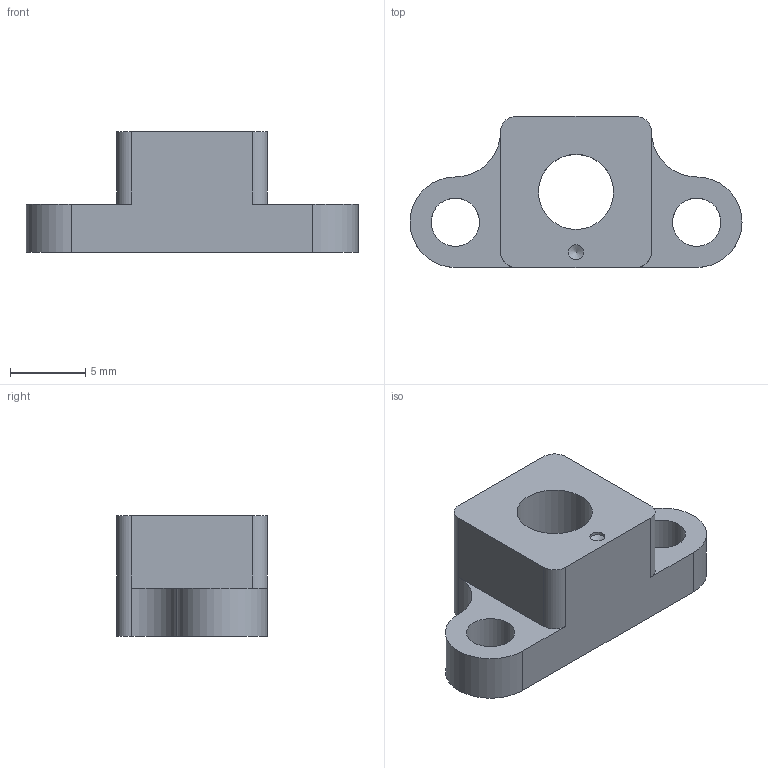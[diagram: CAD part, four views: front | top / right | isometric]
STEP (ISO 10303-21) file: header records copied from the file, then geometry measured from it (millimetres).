
FILE_DESCRIPTION(/* description */ ('Tripod-Adapter 1/4-20-UNC'),/* implementation_level */ '2;1');
FILE_NAME(/* name */ 'KSM_308-24-01-00-03_TripodAdapter 14-20-UNC.stp',/* time_stamp */ '2026-06-21T22:26:33+02:00',/* author */ ('khw'),/* organization */ ('TIS/ Germany'),/* preprocessor_version */ 'ST-DEVELOPER v20',/* originating_system */ 'Autodesk Inventor 2025',/* authorisation */ '6767,5 mm^3');
FILE_SCHEMA (('AUTOMOTIVE_DESIGN { 1 0 10303 214 3 1 1 }'));
Length unit declared in the file: millimetre
Products named in the file (1): KSM_308-24-01-00-03_TripodAdapter 14-20-UNC
Bounding box: 22 x 10 x 8 mm (x, y, z)
Volume: 805.1 mm3; surface area: 815.6 mm2
Topology: 1 solids, 1 shells, 21 faces, 54 edges, 35 vertices
Faces by surface type: cylinder 12, plane 8, cone 1
Full cylindrical faces by diameter (mm): 1 x1, 3.2 x2, 4.978 x1
Entity records: 698 total; most frequent: DIRECTION 121, CARTESIAN_POINT 110, ORIENTED_EDGE 106, EDGE_CURVE 53, AXIS2_PLACEMENT_3D 46, VERTEX_POINT 35, LINE 29, VECTOR 29
